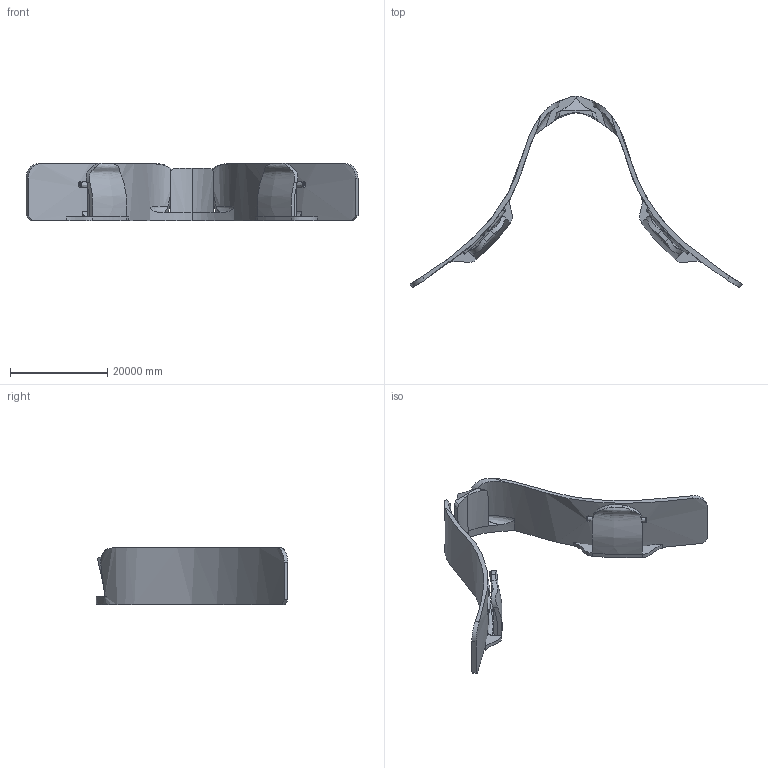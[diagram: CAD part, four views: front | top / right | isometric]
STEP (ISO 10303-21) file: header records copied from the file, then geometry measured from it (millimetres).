
FILE_DESCRIPTION ((), '1');
FILE_NAME ('C:\Users\hp\Documents\MK3i3S\Modely\Maska\Pozicer\Pozicer orig 21.stp', '2021-03-20T19:44:01', ('Unknown'), ('Unknown'), 'HarmonyWare STEP v2.1.4', 'HarmonyWare Translators', '');
FILE_SCHEMA (('CONFIG_CONTROL_DESIGN'));
Length unit declared in the file: metre
Assembly tree (3 placements, depth 2):
  (unnamed)
    (unnamed)
    (unnamed)
    (unnamed)
Bounding box: 68353.61 x 39462.21 x 11800.17 mm (x, y, z)
Volume: 1786231536834 mm3; surface area: 3664826384.2 mm2
Topology: 3 solids, 3 shells, 111 faces, 291 edges, 189 vertices
Faces by surface type: bspline 111
Entity records: 16430 total; most frequent: CARTESIAN_POINT 14150, ORIENTED_EDGE 580, EDGE_CURVE 290, B_SPLINE_CURVE_WITH_KNOTS 285, VERTEX_POINT 189, EDGE_LOOP 115, FACE_OUTER_BOUND 111, ADVANCED_FACE 111
